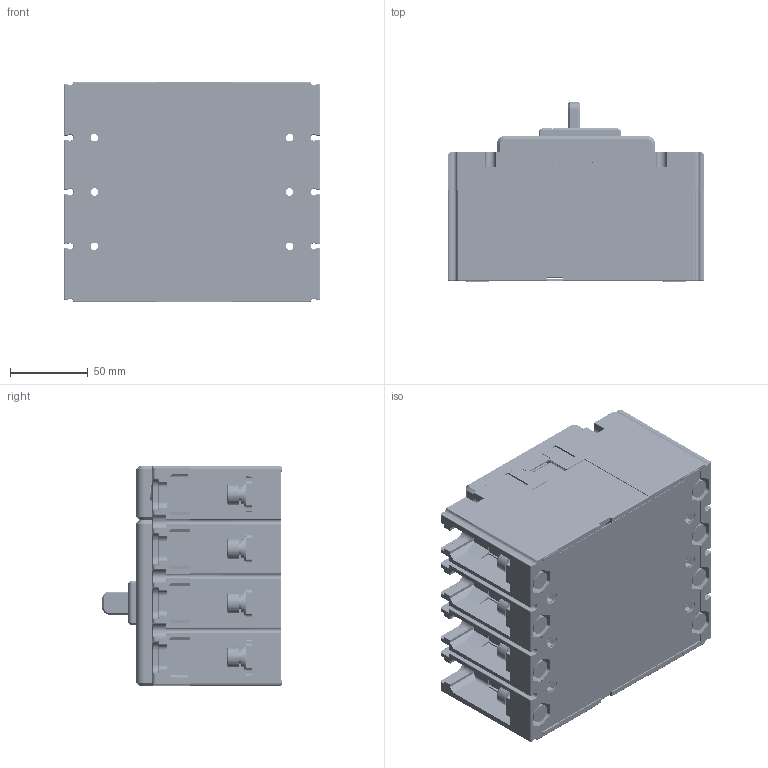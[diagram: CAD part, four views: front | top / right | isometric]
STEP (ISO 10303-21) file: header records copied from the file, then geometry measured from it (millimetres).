
FILE_DESCRIPTION((''),'2;1');
FILE_NAME('CDM3V-250F4P_ASM_7_ASM_ASM','2025-04-28T',('Administrator'),(''),'PRO/ENGINEER BY PARAMETRIC TECHNOLOGY CORPORATION, 2015440','PRO/ENGINEER BY PARAMETRIC TECHNOLOGY CORPORATION, 2015440','');
FILE_SCHEMA(('CONFIG_CONTROL_DESIGN'));
Products named in the file (31): JZ-5024044600_2_1; GB_T809-M3X12_8_1; 5024044600_ASM_2_ASM_1_ASM; 8940007200_8_1; 8551033100_4_1; 8585064400_4_1; 8253076600_8_1; 5253029200_ASM_9_ASM_1_ASM; 8751002100_4_1; 8750029700_4_1; GB_T809-M3X8_8_1; 5315050100_ASM_4_ASM_1_ASM; 8282018100_AF1_8_1; 5315051300_ASM_4_ASM_1_ASM; 8315095900_8_1; 8315096000_5_1; 7010100305R01_GB_T823_M3X10_8_1; 7090300201_GB_T93_3_8_1; GB_T97_4_3_8_1; 5850007700_ASM_8_ASM_1_ASM; 5315051500_ASM_5_ASM_1_ASM; 8742102800_5_1; GB_T70_1-M8X20_8_1; 7090200704_GB_T97_1_8_8_1; 7090370701K_GB_T93_8_8_1; 5850004100_ASM_9_ASM_1_ASM; CDM3V-250F4P_ASM_7_ASM_1_ASM; ZG-5315076400; GB_T809-M3X8; 5315076400_ASM; CDM3V-250F4P_ASM_7_ASM_ASM
Assembly tree (80 placements, depth 6):
  CDM3V-250F4P_ASM_7_ASM_ASM
    CDM3V-250F4P_ASM_7_ASM_1_ASM
      5024044600_ASM_2_ASM_1_ASM
        JZ-5024044600_2_1
        GB_T809-M3X12_8_1  x10
      8940007200_8_1  x8
      8551033100_4_1  x4
      8585064400_4_1  x4
      5253029200_ASM_9_ASM_1_ASM
        8253076600_8_1
      8751002100_4_1  x4
      8750029700_4_1  x4
      5315051500_ASM_5_ASM_1_ASM
        5315051300_ASM_4_ASM_1_ASM
          5315050100_ASM_4_ASM_1_ASM
            GB_T809-M3X8_8_1  x6
          8282018100_AF1_8_1
        8315095900_8_1
        8315096000_5_1
        5850007700_ASM_8_ASM_1_ASM  x6
          7010100305R01_GB_T823_M3X10_8_1
          7090300201_GB_T93_3_8_1
          GB_T97_4_3_8_1
      8742102800_5_1
      5850004100_ASM_9_ASM_1_ASM  x8
        GB_T70_1-M8X20_8_1
        7090200704_GB_T97_1_8_8_1
        7090370701K_GB_T93_8_8_1
    5315076400_ASM
      ZG-5315076400
      GB_T809-M3X8  x6
Bounding box: 165 x 116 x 142 mm (x, y, z)
Volume: 1351490.3 mm3; surface area: 408918.2 mm2
Topology: 95 solids, 155 shells, 7576 faces, 19355 edges, 12127 vertices
Faces by surface type: plane 3415, cylinder 2686, torus 580, cone 359, sphere 244, extrusion 150, bspline 142
Entity records: 207228 total; most frequent: CARTESIAN_POINT 54939, DIRECTION 31882, ORIENTED_EDGE 31728, EDGE_CURVE 15882, AXIS2_PLACEMENT_3D 10884, VECTOR 10114, VERTEX_POINT 9970, LINE 9964
